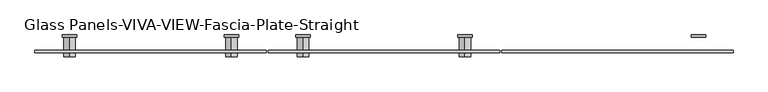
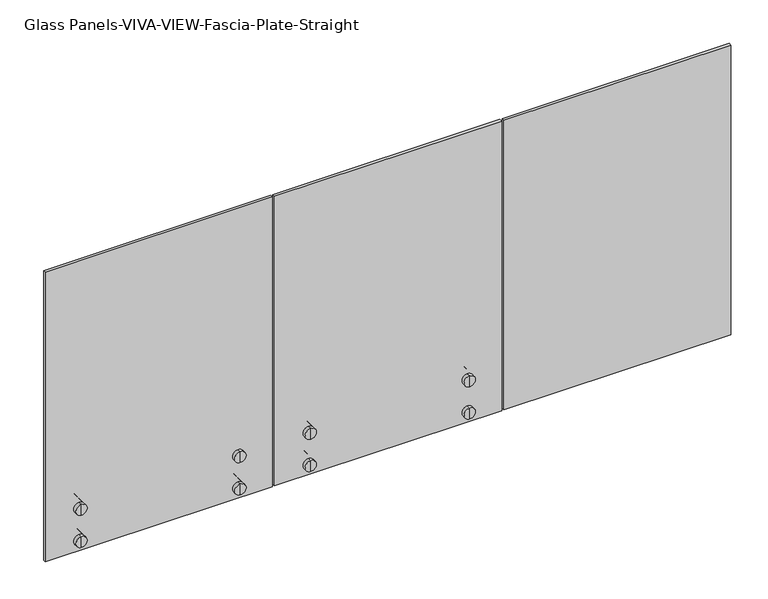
"""IFC4 building model written with IfcOpenShell, lengths in millimetres: railing geometry, Glass Panels-VIVA-VIEW-Fascia-Plate-Straight."""

from ifc_helpers import new_model, si_unit, point, frame, frame_2d, origin, place, context, project, spatial, polyline, circle_curve, trimmed, segment, composite_curve, outline, extrude, source, transform, mapped, element, save
from ifc_brep_helpers import plane_surface, cylinder_surface, advanced_brep


def glass_panels_viva_view_fascia_plate_straight_28301afe(model_context):
    return source(origin(), model_context, "Body", "SolidModel", [
        extrude(outline(composite_curve([segment(polyline([(2971.8, 22815.1596899), (2819.4, 22815.1596899)]), True, "CONTINUOUS"), segment(trimmed(circle_curve(frame_2d((2819.4, 22846.9096899)), 31.75), [point((2819.4, 22815.1596899))], [point((2819.4, 22878.6596899))], False, "CARTESIAN"), True, "CONTINUOUS"), segment(polyline([(2819.4, 22878.6596899), (2971.8, 22878.6596899)]), True, "CONTINUOUS"), segment(trimmed(circle_curve(frame_2d((2971.8, 22846.9096899)), 31.75), [point((2971.8, 22878.6596899))], [point((2971.8, 22815.1596899))], False, "CARTESIAN"), True, "CONTINUOUS")], self_intersect=False)), frame((0.0, -11381.7718115, 0.0), z_axis=(0.0, 1.0, 0.0), x_axis=(0.0, 0.0, 1.0)), (0.0, 0.0, 1.0), 9.525),
        extrude(outline(polyline([(21983.3096899, -11438.9219585), (22999.3096899, -11438.9219585), (22999.3096899, -11451.6219585), (21983.3096899, -11451.6219585), (21983.3096899, -11438.9219585)])), frame((0.0, 0.0, 2768.6), z_axis=(0.0, 0.0, 1.0), x_axis=(1.0, 0.0, 0.0)), (0.0, 0.0, 1.0), 1370.0125),
        advanced_brep(
        [(21109.5496899, -11469.0841646, 2794.0), (21109.5496899, -11469.0841646, 2844.8), (21109.5496899, -11469.0841646, 2819.4), (21109.5496899, -11451.6216646, 2794.0), (21109.5496899, -11451.6216646, 2844.8), (21109.5496899, -11451.6216646, 2813.685), (21109.5496899, -11451.6216646, 2825.115), (21109.5496899, -11438.9216646, 2813.685), (21109.5496899, -11438.9216646, 2825.115), (21109.5496899, -11438.9216646, 2794.0), (21109.5496899, -11438.9216646, 2844.8), (21109.5496899, -11381.7718115, 2794.0), (21109.5496899, -11381.7718115, 2844.8), (21109.5496899, -11381.7718115, 2819.4)],
        [
            (0, 1, circle_curve(frame((21109.5496899, -11469.0841646, 2819.4), z_axis=(0.0, -1.0, 0.0), x_axis=(0.0, 0.0, 1.0)), 25.4)),
            (1, 2),
            (2, 0),
            (1, 0, circle_curve(frame((21109.5496899, -11469.0841646, 2819.4), z_axis=(0.0, -1.0, 0.0), x_axis=(0.0, 0.0, 1.0)), 25.4)),
            (3, 4, circle_curve(frame((21109.5496899, -11451.6216646, 2819.4), z_axis=(0.0, -1.0, 0.0), x_axis=(0.0, 0.0, 1.0)), 25.4)),
            (4, 1),
            (0, 3),
            (4, 3, circle_curve(frame((21109.5496899, -11451.6216646, 2819.4), z_axis=(0.0, -1.0, 0.0), x_axis=(0.0, 0.0, 1.0)), 25.4)),
            (5, 6, circle_curve(frame((21109.5496899, -11451.6216646, 2819.4), z_axis=(0.0, -1.0, 0.0), x_axis=(0.0, 0.0, 1.0)), 5.715)),
            (6, 4),
            (3, 5),
            (6, 5, circle_curve(frame((21109.5496899, -11451.6216646, 2819.4), z_axis=(0.0, -1.0, 0.0), x_axis=(0.0, 0.0, 1.0)), 5.715)),
            (7, 8, circle_curve(frame((21109.5496899, -11438.9216646, 2819.4), z_axis=(0.0, -1.0, 0.0), x_axis=(0.0, 0.0, 1.0)), 5.715)),
            (8, 6),
            (5, 7),
            (8, 7, circle_curve(frame((21109.5496899, -11438.9216646, 2819.4), z_axis=(0.0, -1.0, 0.0), x_axis=(0.0, 0.0, 1.0)), 5.715)),
            (9, 10, circle_curve(frame((21109.5496899, -11438.9216646, 2819.4), z_axis=(0.0, -1.0, 0.0), x_axis=(0.0, 0.0, 1.0)), 25.4)),
            (10, 8),
            (7, 9),
            (10, 9, circle_curve(frame((21109.5496899, -11438.9216646, 2819.4), z_axis=(0.0, -1.0, 0.0), x_axis=(0.0, 0.0, 1.0)), 25.4)),
            (11, 12, circle_curve(frame((21109.5496899, -11381.7718115, 2819.4), z_axis=(0.0, -1.0, 0.0), x_axis=(0.0, 0.0, 1.0)), 25.4)),
            (12, 10),
            (9, 11),
            (12, 11, circle_curve(frame((21109.5496899, -11381.7718115, 2819.4), z_axis=(0.0, -1.0, 0.0), x_axis=(0.0, 0.0, 1.0)), 25.4)),
            (13, 12),
            (11, 13),
        ],
        [
            plane_surface(frame((21109.5496899, -11469.0841646, 2819.4), z_axis=(0.0, -1.0, 0.0), x_axis=(0.0, 0.0, 1.0))),
            cylinder_surface(frame((21109.5496899, -11537.3468115, 2819.4), z_axis=(0.0, 1.0, 0.0), x_axis=(0.0, 0.0, 1.0)), 25.4),
            plane_surface(frame((21109.5496899, -11451.6216646, 2819.4), z_axis=(0.0, 1.0, 0.0), x_axis=(0.0, 0.0, 1.0))),
            cylinder_surface(frame((21109.5496899, -11537.3468115, 2819.4), z_axis=(0.0, 1.0, 0.0), x_axis=(0.0, 0.0, 1.0)), 5.715),
            plane_surface(frame((21109.5496899, -11438.9216646, 2819.4), z_axis=(0.0, -1.0, 0.0), x_axis=(0.0, 0.0, 1.0))),
            plane_surface(frame((21109.5496899, -11381.7718115, 2819.4), z_axis=(0.0, 1.0, 0.0), x_axis=(0.0, 0.0, 1.0))),
        ],
        [
            (0, [[1, 2, 3]]),
            (0, [[4, -3, -2]]),
            (1, [[5, 6, -1, 7]]),
            (1, [[8, -7, -4, -6]]),
            (2, [[9, 10, -5, 11]]),
            (2, [[12, -11, -8, -10]]),
            (3, [[13, 14, -9, 15]]),
            (3, [[16, -15, -12, -14]]),
            (4, [[17, 18, -13, 19]]),
            (4, [[20, -19, -16, -18]]),
            (1, [[21, 22, -17, 23]]),
            (1, [[24, -23, -20, -22]]),
            (5, [[25, -21, 26]]),
            (5, [[-26, -24, -25]]),
        ],
    ),
        advanced_brep(
        [(21109.5496899, -11451.6216646, 2966.085), (21109.5496899, -11451.6216646, 2977.515), (21109.5496899, -11451.6216646, 2997.2), (21109.5496899, -11451.6216646, 2946.4), (21109.5496899, -11438.9216646, 2966.085), (21109.5496899, -11438.9216646, 2977.515), (21109.5496899, -11438.9216646, 2946.4), (21109.5496899, -11438.9216646, 2997.2), (21109.5496899, -11381.7718115, 2946.4), (21109.5496899, -11381.7718115, 2997.2), (21109.5496899, -11381.7718115, 2971.8), (21109.5496899, -11469.0841646, 2946.4), (21109.5496899, -11469.0841646, 2997.2), (21109.5496899, -11469.0841646, 2971.8)],
        [
            (0, 1, circle_curve(frame((21109.5496899, -11451.6216646, 2971.8), z_axis=(0.0, -1.0, 0.0), x_axis=(0.0, 0.0, 1.0)), 5.715)),
            (1, 2),
            (2, 3, circle_curve(frame((21109.5496899, -11451.6216646, 2971.8), z_axis=(0.0, 1.0, 0.0), x_axis=(0.0, 0.0, 1.0)), 25.4)),
            (3, 0),
            (1, 0, circle_curve(frame((21109.5496899, -11451.6216646, 2971.8), z_axis=(0.0, -1.0, 0.0), x_axis=(0.0, 0.0, 1.0)), 5.715)),
            (3, 2, circle_curve(frame((21109.5496899, -11451.6216646, 2971.8), z_axis=(0.0, 1.0, 0.0), x_axis=(0.0, 0.0, 1.0)), 25.4)),
            (4, 5, circle_curve(frame((21109.5496899, -11438.9216646, 2971.8), z_axis=(0.0, -1.0, 0.0), x_axis=(0.0, 0.0, 1.0)), 5.715)),
            (5, 1),
            (0, 4),
            (5, 4, circle_curve(frame((21109.5496899, -11438.9216646, 2971.8), z_axis=(0.0, -1.0, 0.0), x_axis=(0.0, 0.0, 1.0)), 5.715)),
            (6, 7, circle_curve(frame((21109.5496899, -11438.9216646, 2971.8), z_axis=(0.0, -1.0, 0.0), x_axis=(0.0, 0.0, 1.0)), 25.4)),
            (7, 5),
            (4, 6),
            (7, 6, circle_curve(frame((21109.5496899, -11438.9216646, 2971.8), z_axis=(0.0, -1.0, 0.0), x_axis=(0.0, 0.0, 1.0)), 25.4)),
            (8, 9, circle_curve(frame((21109.5496899, -11381.7718115, 2971.8), z_axis=(0.0, -1.0, 0.0), x_axis=(0.0, 0.0, 1.0)), 25.4)),
            (9, 7),
            (6, 8),
            (9, 8, circle_curve(frame((21109.5496899, -11381.7718115, 2971.8), z_axis=(0.0, -1.0, 0.0), x_axis=(0.0, 0.0, 1.0)), 25.4)),
            (10, 9),
            (8, 10),
            (11, 12, circle_curve(frame((21109.5496899, -11469.0841646, 2971.8), z_axis=(0.0, -1.0, 0.0), x_axis=(0.0, 0.0, 1.0)), 25.4)),
            (12, 13),
            (13, 11),
            (12, 11, circle_curve(frame((21109.5496899, -11469.0841646, 2971.8), z_axis=(0.0, -1.0, 0.0), x_axis=(0.0, 0.0, 1.0)), 25.4)),
            (2, 12),
            (11, 3),
        ],
        [
            plane_surface(frame((21109.5496899, -11451.6216646, 2971.8), z_axis=(0.0, 1.0, 0.0), x_axis=(0.0, 0.0, 1.0))),
            cylinder_surface(frame((21109.5496899, -11537.3468115, 2971.8), z_axis=(0.0, 1.0, 0.0), x_axis=(0.0, 0.0, 1.0)), 5.715),
            plane_surface(frame((21109.5496899, -11438.9216646, 2971.8), z_axis=(0.0, -1.0, 0.0), x_axis=(0.0, 0.0, 1.0))),
            cylinder_surface(frame((21109.5496899, -11537.3468115, 2971.8), z_axis=(0.0, 1.0, 0.0), x_axis=(0.0, 0.0, 1.0)), 25.4),
            plane_surface(frame((21109.5496899, -11381.7718115, 2971.8), z_axis=(0.0, 1.0, 0.0), x_axis=(0.0, 0.0, 1.0))),
            plane_surface(frame((21109.5496899, -11469.0841646, 2971.8), z_axis=(0.0, -1.0, 0.0), x_axis=(0.0, 0.0, 1.0))),
        ],
        [
            (0, [[1, 2, 3, 4]]),
            (0, [[5, -4, 6, -2]]),
            (1, [[7, 8, -1, 9]]),
            (1, [[10, -9, -5, -8]]),
            (2, [[11, 12, -7, 13]]),
            (2, [[14, -13, -10, -12]]),
            (3, [[15, 16, -11, 17]]),
            (3, [[18, -17, -14, -16]]),
            (4, [[19, -15, 20]]),
            (4, [[-20, -18, -19]]),
            (5, [[21, 22, 23]]),
            (5, [[24, -23, -22]]),
            (3, [[-3, 25, -21, 26]]),
            (3, [[-6, -26, -24, -25]]),
        ],
    ),
        extrude(outline(composite_curve([segment(polyline([(2971.8, 21077.7996899), (2819.4, 21077.7996899)]), True, "CONTINUOUS"), segment(trimmed(circle_curve(frame_2d((2819.4, 21109.5496899)), 31.75), [point((2819.4, 21077.7996899))], [point((2819.4, 21141.2996899))], False, "CARTESIAN"), True, "CONTINUOUS"), segment(polyline([(2819.4, 21141.2996899), (2971.8, 21141.2996899)]), True, "CONTINUOUS"), segment(trimmed(circle_curve(frame_2d((2971.8, 21109.5496899)), 31.75), [point((2971.8, 21141.2996899))], [point((2971.8, 21077.7996899))], False, "CARTESIAN"), True, "CONTINUOUS")], self_intersect=False)), frame((0.0, -11381.7718115, 0.0), z_axis=(0.0, 1.0, 0.0), x_axis=(0.0, 0.0, 1.0)), (0.0, 0.0, 1.0), 9.525),
        advanced_brep(
        [(21820.7496899, -11469.0841646, 2794.0), (21820.7496899, -11469.0841646, 2844.8), (21820.7496899, -11469.0841646, 2819.4), (21820.7496899, -11451.6216646, 2794.0), (21820.7496899, -11451.6216646, 2844.8), (21820.7496899, -11451.6216646, 2813.685), (21820.7496899, -11451.6216646, 2825.115), (21820.7496899, -11438.9216646, 2813.685), (21820.7496899, -11438.9216646, 2825.115), (21820.7496899, -11438.9216646, 2794.0), (21820.7496899, -11438.9216646, 2844.8), (21820.7496899, -11381.7718115, 2794.0), (21820.7496899, -11381.7718115, 2844.8), (21820.7496899, -11381.7718115, 2819.4)],
        [
            (0, 1, circle_curve(frame((21820.7496899, -11469.0841646, 2819.4), z_axis=(0.0, -1.0, 0.0), x_axis=(0.0, 0.0, 1.0)), 25.4)),
            (1, 2),
            (2, 0),
            (1, 0, circle_curve(frame((21820.7496899, -11469.0841646, 2819.4), z_axis=(0.0, -1.0, 0.0), x_axis=(0.0, 0.0, 1.0)), 25.4)),
            (3, 4, circle_curve(frame((21820.7496899, -11451.6216646, 2819.4), z_axis=(0.0, -1.0, 0.0), x_axis=(0.0, 0.0, 1.0)), 25.4)),
            (4, 1),
            (0, 3),
            (4, 3, circle_curve(frame((21820.7496899, -11451.6216646, 2819.4), z_axis=(0.0, -1.0, 0.0), x_axis=(0.0, 0.0, 1.0)), 25.4)),
            (5, 6, circle_curve(frame((21820.7496899, -11451.6216646, 2819.4), z_axis=(0.0, -1.0, 0.0), x_axis=(0.0, 0.0, 1.0)), 5.715)),
            (6, 4),
            (3, 5),
            (6, 5, circle_curve(frame((21820.7496899, -11451.6216646, 2819.4), z_axis=(0.0, -1.0, 0.0), x_axis=(0.0, 0.0, 1.0)), 5.715)),
            (7, 8, circle_curve(frame((21820.7496899, -11438.9216646, 2819.4), z_axis=(0.0, -1.0, 0.0), x_axis=(0.0, 0.0, 1.0)), 5.715)),
            (8, 6),
            (5, 7),
            (8, 7, circle_curve(frame((21820.7496899, -11438.9216646, 2819.4), z_axis=(0.0, -1.0, 0.0), x_axis=(0.0, 0.0, 1.0)), 5.715)),
            (9, 10, circle_curve(frame((21820.7496899, -11438.9216646, 2819.4), z_axis=(0.0, -1.0, 0.0), x_axis=(0.0, 0.0, 1.0)), 25.4)),
            (10, 8),
            (7, 9),
            (10, 9, circle_curve(frame((21820.7496899, -11438.9216646, 2819.4), z_axis=(0.0, -1.0, 0.0), x_axis=(0.0, 0.0, 1.0)), 25.4)),
            (11, 12, circle_curve(frame((21820.7496899, -11381.7718115, 2819.4), z_axis=(0.0, -1.0, 0.0), x_axis=(0.0, 0.0, 1.0)), 25.4)),
            (12, 10),
            (9, 11),
            (12, 11, circle_curve(frame((21820.7496899, -11381.7718115, 2819.4), z_axis=(0.0, -1.0, 0.0), x_axis=(0.0, 0.0, 1.0)), 25.4)),
            (13, 12),
            (11, 13),
        ],
        [
            plane_surface(frame((21820.7496899, -11469.0841646, 2819.4), z_axis=(0.0, -1.0, 0.0), x_axis=(0.0, 0.0, 1.0))),
            cylinder_surface(frame((21820.7496899, -11537.3468115, 2819.4), z_axis=(0.0, 1.0, 0.0), x_axis=(0.0, 0.0, 1.0)), 25.4),
            plane_surface(frame((21820.7496899, -11451.6216646, 2819.4), z_axis=(0.0, 1.0, 0.0), x_axis=(0.0, 0.0, 1.0))),
            cylinder_surface(frame((21820.7496899, -11537.3468115, 2819.4), z_axis=(0.0, 1.0, 0.0), x_axis=(0.0, 0.0, 1.0)), 5.715),
            plane_surface(frame((21820.7496899, -11438.9216646, 2819.4), z_axis=(0.0, -1.0, 0.0), x_axis=(0.0, 0.0, 1.0))),
            plane_surface(frame((21820.7496899, -11381.7718115, 2819.4), z_axis=(0.0, 1.0, 0.0), x_axis=(0.0, 0.0, 1.0))),
        ],
        [
            (0, [[1, 2, 3]]),
            (0, [[4, -3, -2]]),
            (1, [[5, 6, -1, 7]]),
            (1, [[8, -7, -4, -6]]),
            (2, [[9, 10, -5, 11]]),
            (2, [[12, -11, -8, -10]]),
            (3, [[13, 14, -9, 15]]),
            (3, [[16, -15, -12, -14]]),
            (4, [[17, 18, -13, 19]]),
            (4, [[20, -19, -16, -18]]),
            (1, [[21, 22, -17, 23]]),
            (1, [[24, -23, -20, -22]]),
            (5, [[25, -21, 26]]),
            (5, [[-26, -24, -25]]),
        ],
    ),
        advanced_brep(
        [(21820.7496899, -11451.6216646, 2966.085), (21820.7496899, -11451.6216646, 2977.515), (21820.7496899, -11451.6216646, 2997.2), (21820.7496899, -11451.6216646, 2946.4), (21820.7496899, -11438.9216646, 2966.085), (21820.7496899, -11438.9216646, 2977.515), (21820.7496899, -11438.9216646, 2946.4), (21820.7496899, -11438.9216646, 2997.2), (21820.7496899, -11381.7718115, 2946.4), (21820.7496899, -11381.7718115, 2997.2), (21820.7496899, -11381.7718115, 2971.8), (21820.7496899, -11469.0841646, 2946.4), (21820.7496899, -11469.0841646, 2997.2), (21820.7496899, -11469.0841646, 2971.8)],
        [
            (0, 1, circle_curve(frame((21820.7496899, -11451.6216646, 2971.8), z_axis=(0.0, -1.0, 0.0), x_axis=(0.0, 0.0, 1.0)), 5.715)),
            (1, 2),
            (2, 3, circle_curve(frame((21820.7496899, -11451.6216646, 2971.8), z_axis=(0.0, 1.0, 0.0), x_axis=(0.0, 0.0, 1.0)), 25.4)),
            (3, 0),
            (1, 0, circle_curve(frame((21820.7496899, -11451.6216646, 2971.8), z_axis=(0.0, -1.0, 0.0), x_axis=(0.0, 0.0, 1.0)), 5.715)),
            (3, 2, circle_curve(frame((21820.7496899, -11451.6216646, 2971.8), z_axis=(0.0, 1.0, 0.0), x_axis=(0.0, 0.0, 1.0)), 25.4)),
            (4, 5, circle_curve(frame((21820.7496899, -11438.9216646, 2971.8), z_axis=(0.0, -1.0, 0.0), x_axis=(0.0, 0.0, 1.0)), 5.715)),
            (5, 1),
            (0, 4),
            (5, 4, circle_curve(frame((21820.7496899, -11438.9216646, 2971.8), z_axis=(0.0, -1.0, 0.0), x_axis=(0.0, 0.0, 1.0)), 5.715)),
            (6, 7, circle_curve(frame((21820.7496899, -11438.9216646, 2971.8), z_axis=(0.0, -1.0, 0.0), x_axis=(0.0, 0.0, 1.0)), 25.4)),
            (7, 5),
            (4, 6),
            (7, 6, circle_curve(frame((21820.7496899, -11438.9216646, 2971.8), z_axis=(0.0, -1.0, 0.0), x_axis=(0.0, 0.0, 1.0)), 25.4)),
            (8, 9, circle_curve(frame((21820.7496899, -11381.7718115, 2971.8), z_axis=(0.0, -1.0, 0.0), x_axis=(0.0, 0.0, 1.0)), 25.4)),
            (9, 7),
            (6, 8),
            (9, 8, circle_curve(frame((21820.7496899, -11381.7718115, 2971.8), z_axis=(0.0, -1.0, 0.0), x_axis=(0.0, 0.0, 1.0)), 25.4)),
            (10, 9),
            (8, 10),
            (11, 12, circle_curve(frame((21820.7496899, -11469.0841646, 2971.8), z_axis=(0.0, -1.0, 0.0), x_axis=(0.0, 0.0, 1.0)), 25.4)),
            (12, 13),
            (13, 11),
            (12, 11, circle_curve(frame((21820.7496899, -11469.0841646, 2971.8), z_axis=(0.0, -1.0, 0.0), x_axis=(0.0, 0.0, 1.0)), 25.4)),
            (2, 12),
            (11, 3),
        ],
        [
            plane_surface(frame((21820.7496899, -11451.6216646, 2971.8), z_axis=(0.0, 1.0, 0.0), x_axis=(0.0, 0.0, 1.0))),
            cylinder_surface(frame((21820.7496899, -11537.3468115, 2971.8), z_axis=(0.0, 1.0, 0.0), x_axis=(0.0, 0.0, 1.0)), 5.715),
            plane_surface(frame((21820.7496899, -11438.9216646, 2971.8), z_axis=(0.0, -1.0, 0.0), x_axis=(0.0, 0.0, 1.0))),
            cylinder_surface(frame((21820.7496899, -11537.3468115, 2971.8), z_axis=(0.0, 1.0, 0.0), x_axis=(0.0, 0.0, 1.0)), 25.4),
            plane_surface(frame((21820.7496899, -11381.7718115, 2971.8), z_axis=(0.0, 1.0, 0.0), x_axis=(0.0, 0.0, 1.0))),
            plane_surface(frame((21820.7496899, -11469.0841646, 2971.8), z_axis=(0.0, -1.0, 0.0), x_axis=(0.0, 0.0, 1.0))),
        ],
        [
            (0, [[1, 2, 3, 4]]),
            (0, [[5, -4, 6, -2]]),
            (1, [[7, 8, -1, 9]]),
            (1, [[10, -9, -5, -8]]),
            (2, [[11, 12, -7, 13]]),
            (2, [[14, -13, -10, -12]]),
            (3, [[15, 16, -11, 17]]),
            (3, [[18, -17, -14, -16]]),
            (4, [[19, -15, 20]]),
            (4, [[-20, -18, -19]]),
            (5, [[21, 22, 23]]),
            (5, [[24, -23, -22]]),
            (3, [[-3, 25, -21, 26]]),
            (3, [[-6, -26, -24, -25]]),
        ],
    ),
        extrude(outline(composite_curve([segment(polyline([(2971.8, 21788.9996899), (2819.4, 21788.9996899)]), True, "CONTINUOUS"), segment(trimmed(circle_curve(frame_2d((2819.4, 21820.7496899)), 31.75), [point((2819.4, 21788.9996899))], [point((2819.4, 21852.4996899))], False, "CARTESIAN"), True, "CONTINUOUS"), segment(polyline([(2819.4, 21852.4996899), (2971.8, 21852.4996899)]), True, "CONTINUOUS"), segment(trimmed(circle_curve(frame_2d((2971.8, 21820.7496899)), 31.75), [point((2971.8, 21852.4996899))], [point((2971.8, 21788.9996899))], False, "CARTESIAN"), True, "CONTINUOUS")], self_intersect=False)), frame((0.0, -11381.7718115, 0.0), z_axis=(0.0, 1.0, 0.0), x_axis=(0.0, 0.0, 1.0)), (0.0, 0.0, 1.0), 9.525),
        extrude(outline(polyline([(20957.1496899, -11438.9219585), (21973.1496899, -11438.9219585), (21973.1496899, -11451.6219585), (20957.1496899, -11451.6219585), (20957.1496899, -11438.9219585)])), frame((0.0, 0.0, 2768.6), z_axis=(0.0, 0.0, 1.0), x_axis=(1.0, 0.0, 0.0)), (0.0, 0.0, 1.0), 1370.0125),
        advanced_brep(
        [(20083.3896899, -11469.0841646, 2794.0), (20083.3896899, -11469.0841646, 2844.8), (20083.3896899, -11469.0841646, 2819.4), (20083.3896899, -11451.6216646, 2794.0), (20083.3896899, -11451.6216646, 2844.8), (20083.3896899, -11451.6216646, 2813.685), (20083.3896899, -11451.6216646, 2825.115), (20083.3896899, -11438.9216646, 2813.685), (20083.3896899, -11438.9216646, 2825.115), (20083.3896899, -11438.9216646, 2794.0), (20083.3896899, -11438.9216646, 2844.8), (20083.3896899, -11381.7718115, 2794.0), (20083.3896899, -11381.7718115, 2844.8), (20083.3896899, -11381.7718115, 2819.4)],
        [
            (0, 1, circle_curve(frame((20083.3896899, -11469.0841646, 2819.4), z_axis=(0.0, -1.0, 0.0), x_axis=(0.0, 0.0, 1.0)), 25.4)),
            (1, 2),
            (2, 0),
            (1, 0, circle_curve(frame((20083.3896899, -11469.0841646, 2819.4), z_axis=(0.0, -1.0, 0.0), x_axis=(0.0, 0.0, 1.0)), 25.4)),
            (3, 4, circle_curve(frame((20083.3896899, -11451.6216646, 2819.4), z_axis=(0.0, -1.0, 0.0), x_axis=(0.0, 0.0, 1.0)), 25.4)),
            (4, 1),
            (0, 3),
            (4, 3, circle_curve(frame((20083.3896899, -11451.6216646, 2819.4), z_axis=(0.0, -1.0, 0.0), x_axis=(0.0, 0.0, 1.0)), 25.4)),
            (5, 6, circle_curve(frame((20083.3896899, -11451.6216646, 2819.4), z_axis=(0.0, -1.0, 0.0), x_axis=(0.0, 0.0, 1.0)), 5.715)),
            (6, 4),
            (3, 5),
            (6, 5, circle_curve(frame((20083.3896899, -11451.6216646, 2819.4), z_axis=(0.0, -1.0, 0.0), x_axis=(0.0, 0.0, 1.0)), 5.715)),
            (7, 8, circle_curve(frame((20083.3896899, -11438.9216646, 2819.4), z_axis=(0.0, -1.0, 0.0), x_axis=(0.0, 0.0, 1.0)), 5.715)),
            (8, 6),
            (5, 7),
            (8, 7, circle_curve(frame((20083.3896899, -11438.9216646, 2819.4), z_axis=(0.0, -1.0, 0.0), x_axis=(0.0, 0.0, 1.0)), 5.715)),
            (9, 10, circle_curve(frame((20083.3896899, -11438.9216646, 2819.4), z_axis=(0.0, -1.0, 0.0), x_axis=(0.0, 0.0, 1.0)), 25.4)),
            (10, 8),
            (7, 9),
            (10, 9, circle_curve(frame((20083.3896899, -11438.9216646, 2819.4), z_axis=(0.0, -1.0, 0.0), x_axis=(0.0, 0.0, 1.0)), 25.4)),
            (11, 12, circle_curve(frame((20083.3896899, -11381.7718115, 2819.4), z_axis=(0.0, -1.0, 0.0), x_axis=(0.0, 0.0, 1.0)), 25.4)),
            (12, 10),
            (9, 11),
            (12, 11, circle_curve(frame((20083.3896899, -11381.7718115, 2819.4), z_axis=(0.0, -1.0, 0.0), x_axis=(0.0, 0.0, 1.0)), 25.4)),
            (13, 12),
            (11, 13),
        ],
        [
            plane_surface(frame((20083.3896899, -11469.0841646, 2819.4), z_axis=(0.0, -1.0, 0.0), x_axis=(0.0, 0.0, 1.0))),
            cylinder_surface(frame((20083.3896899, -11537.3468115, 2819.4), z_axis=(0.0, 1.0, 0.0), x_axis=(0.0, 0.0, 1.0)), 25.4),
            plane_surface(frame((20083.3896899, -11451.6216646, 2819.4), z_axis=(0.0, 1.0, 0.0), x_axis=(0.0, 0.0, 1.0))),
            cylinder_surface(frame((20083.3896899, -11537.3468115, 2819.4), z_axis=(0.0, 1.0, 0.0), x_axis=(0.0, 0.0, 1.0)), 5.715),
            plane_surface(frame((20083.3896899, -11438.9216646, 2819.4), z_axis=(0.0, -1.0, 0.0), x_axis=(0.0, 0.0, 1.0))),
            plane_surface(frame((20083.3896899, -11381.7718115, 2819.4), z_axis=(0.0, 1.0, 0.0), x_axis=(0.0, 0.0, 1.0))),
        ],
        [
            (0, [[1, 2, 3]]),
            (0, [[4, -3, -2]]),
            (1, [[5, 6, -1, 7]]),
            (1, [[8, -7, -4, -6]]),
            (2, [[9, 10, -5, 11]]),
            (2, [[12, -11, -8, -10]]),
            (3, [[13, 14, -9, 15]]),
            (3, [[16, -15, -12, -14]]),
            (4, [[17, 18, -13, 19]]),
            (4, [[20, -19, -16, -18]]),
            (1, [[21, 22, -17, 23]]),
            (1, [[24, -23, -20, -22]]),
            (5, [[25, -21, 26]]),
            (5, [[-26, -24, -25]]),
        ],
    ),
        advanced_brep(
        [(20083.3896899, -11451.6216646, 2966.085), (20083.3896899, -11451.6216646, 2977.515), (20083.3896899, -11451.6216646, 2997.2), (20083.3896899, -11451.6216646, 2946.4), (20083.3896899, -11438.9216646, 2966.085), (20083.3896899, -11438.9216646, 2977.515), (20083.3896899, -11438.9216646, 2946.4), (20083.3896899, -11438.9216646, 2997.2), (20083.3896899, -11381.7718115, 2946.4), (20083.3896899, -11381.7718115, 2997.2), (20083.3896899, -11381.7718115, 2971.8), (20083.3896899, -11469.0841646, 2946.4), (20083.3896899, -11469.0841646, 2997.2), (20083.3896899, -11469.0841646, 2971.8)],
        [
            (0, 1, circle_curve(frame((20083.3896899, -11451.6216646, 2971.8), z_axis=(0.0, -1.0, 0.0), x_axis=(0.0, 0.0, 1.0)), 5.715)),
            (1, 2),
            (2, 3, circle_curve(frame((20083.3896899, -11451.6216646, 2971.8), z_axis=(0.0, 1.0, 0.0), x_axis=(0.0, 0.0, 1.0)), 25.4)),
            (3, 0),
            (1, 0, circle_curve(frame((20083.3896899, -11451.6216646, 2971.8), z_axis=(0.0, -1.0, 0.0), x_axis=(0.0, 0.0, 1.0)), 5.715)),
            (3, 2, circle_curve(frame((20083.3896899, -11451.6216646, 2971.8), z_axis=(0.0, 1.0, 0.0), x_axis=(0.0, 0.0, 1.0)), 25.4)),
            (4, 5, circle_curve(frame((20083.3896899, -11438.9216646, 2971.8), z_axis=(0.0, -1.0, 0.0), x_axis=(0.0, 0.0, 1.0)), 5.715)),
            (5, 1),
            (0, 4),
            (5, 4, circle_curve(frame((20083.3896899, -11438.9216646, 2971.8), z_axis=(0.0, -1.0, 0.0), x_axis=(0.0, 0.0, 1.0)), 5.715)),
            (6, 7, circle_curve(frame((20083.3896899, -11438.9216646, 2971.8), z_axis=(0.0, -1.0, 0.0), x_axis=(0.0, 0.0, 1.0)), 25.4)),
            (7, 5),
            (4, 6),
            (7, 6, circle_curve(frame((20083.3896899, -11438.9216646, 2971.8), z_axis=(0.0, -1.0, 0.0), x_axis=(0.0, 0.0, 1.0)), 25.4)),
            (8, 9, circle_curve(frame((20083.3896899, -11381.7718115, 2971.8), z_axis=(0.0, -1.0, 0.0), x_axis=(0.0, 0.0, 1.0)), 25.4)),
            (9, 7),
            (6, 8),
            (9, 8, circle_curve(frame((20083.3896899, -11381.7718115, 2971.8), z_axis=(0.0, -1.0, 0.0), x_axis=(0.0, 0.0, 1.0)), 25.4)),
            (10, 9),
            (8, 10),
            (11, 12, circle_curve(frame((20083.3896899, -11469.0841646, 2971.8), z_axis=(0.0, -1.0, 0.0), x_axis=(0.0, 0.0, 1.0)), 25.4)),
            (12, 13),
            (13, 11),
            (12, 11, circle_curve(frame((20083.3896899, -11469.0841646, 2971.8), z_axis=(0.0, -1.0, 0.0), x_axis=(0.0, 0.0, 1.0)), 25.4)),
            (2, 12),
            (11, 3),
        ],
        [
            plane_surface(frame((20083.3896899, -11451.6216646, 2971.8), z_axis=(0.0, 1.0, 0.0), x_axis=(0.0, 0.0, 1.0))),
            cylinder_surface(frame((20083.3896899, -11537.3468115, 2971.8), z_axis=(0.0, 1.0, 0.0), x_axis=(0.0, 0.0, 1.0)), 5.715),
            plane_surface(frame((20083.3896899, -11438.9216646, 2971.8), z_axis=(0.0, -1.0, 0.0), x_axis=(0.0, 0.0, 1.0))),
            cylinder_surface(frame((20083.3896899, -11537.3468115, 2971.8), z_axis=(0.0, 1.0, 0.0), x_axis=(0.0, 0.0, 1.0)), 25.4),
            plane_surface(frame((20083.3896899, -11381.7718115, 2971.8), z_axis=(0.0, 1.0, 0.0), x_axis=(0.0, 0.0, 1.0))),
            plane_surface(frame((20083.3896899, -11469.0841646, 2971.8), z_axis=(0.0, -1.0, 0.0), x_axis=(0.0, 0.0, 1.0))),
        ],
        [
            (0, [[1, 2, 3, 4]]),
            (0, [[5, -4, 6, -2]]),
            (1, [[7, 8, -1, 9]]),
            (1, [[10, -9, -5, -8]]),
            (2, [[11, 12, -7, 13]]),
            (2, [[14, -13, -10, -12]]),
            (3, [[15, 16, -11, 17]]),
            (3, [[18, -17, -14, -16]]),
            (4, [[19, -15, 20]]),
            (4, [[-20, -18, -19]]),
            (5, [[21, 22, 23]]),
            (5, [[24, -23, -22]]),
            (3, [[-3, 25, -21, 26]]),
            (3, [[-6, -26, -24, -25]]),
        ],
    ),
        extrude(outline(composite_curve([segment(polyline([(2971.8, 20051.6396899), (2819.4, 20051.6396899)]), True, "CONTINUOUS"), segment(trimmed(circle_curve(frame_2d((2819.4, 20083.3896899)), 31.75), [point((2819.4, 20051.6396899))], [point((2819.4, 20115.1396899))], False, "CARTESIAN"), True, "CONTINUOUS"), segment(polyline([(2819.4, 20115.1396899), (2971.8, 20115.1396899)]), True, "CONTINUOUS"), segment(trimmed(circle_curve(frame_2d((2971.8, 20083.3896899)), 31.75), [point((2971.8, 20115.1396899))], [point((2971.8, 20051.6396899))], False, "CARTESIAN"), True, "CONTINUOUS")], self_intersect=False)), frame((0.0, -11381.7718115, 0.0), z_axis=(0.0, 1.0, 0.0), x_axis=(0.0, 0.0, 1.0)), (0.0, 0.0, 1.0), 9.525),
        advanced_brep(
        [(20794.5896899, -11469.0841646, 2794.0), (20794.5896899, -11469.0841646, 2844.8), (20794.5896899, -11469.0841646, 2819.4), (20794.5896899, -11451.6216646, 2794.0), (20794.5896899, -11451.6216646, 2844.8), (20794.5896899, -11451.6216646, 2813.685), (20794.5896899, -11451.6216646, 2825.115), (20794.5896899, -11438.9216646, 2813.685), (20794.5896899, -11438.9216646, 2825.115), (20794.5896899, -11438.9216646, 2794.0), (20794.5896899, -11438.9216646, 2844.8), (20794.5896899, -11381.7718115, 2794.0), (20794.5896899, -11381.7718115, 2844.8), (20794.5896899, -11381.7718115, 2819.4)],
        [
            (0, 1, circle_curve(frame((20794.5896899, -11469.0841646, 2819.4), z_axis=(0.0, -1.0, 0.0), x_axis=(0.0, 0.0, 1.0)), 25.4)),
            (1, 2),
            (2, 0),
            (1, 0, circle_curve(frame((20794.5896899, -11469.0841646, 2819.4), z_axis=(0.0, -1.0, 0.0), x_axis=(0.0, 0.0, 1.0)), 25.4)),
            (3, 4, circle_curve(frame((20794.5896899, -11451.6216646, 2819.4), z_axis=(0.0, -1.0, 0.0), x_axis=(0.0, 0.0, 1.0)), 25.4)),
            (4, 1),
            (0, 3),
            (4, 3, circle_curve(frame((20794.5896899, -11451.6216646, 2819.4), z_axis=(0.0, -1.0, 0.0), x_axis=(0.0, 0.0, 1.0)), 25.4)),
            (5, 6, circle_curve(frame((20794.5896899, -11451.6216646, 2819.4), z_axis=(0.0, -1.0, 0.0), x_axis=(0.0, 0.0, 1.0)), 5.715)),
            (6, 4),
            (3, 5),
            (6, 5, circle_curve(frame((20794.5896899, -11451.6216646, 2819.4), z_axis=(0.0, -1.0, 0.0), x_axis=(0.0, 0.0, 1.0)), 5.715)),
            (7, 8, circle_curve(frame((20794.5896899, -11438.9216646, 2819.4), z_axis=(0.0, -1.0, 0.0), x_axis=(0.0, 0.0, 1.0)), 5.715)),
            (8, 6),
            (5, 7),
            (8, 7, circle_curve(frame((20794.5896899, -11438.9216646, 2819.4), z_axis=(0.0, -1.0, 0.0), x_axis=(0.0, 0.0, 1.0)), 5.715)),
            (9, 10, circle_curve(frame((20794.5896899, -11438.9216646, 2819.4), z_axis=(0.0, -1.0, 0.0), x_axis=(0.0, 0.0, 1.0)), 25.4)),
            (10, 8),
            (7, 9),
            (10, 9, circle_curve(frame((20794.5896899, -11438.9216646, 2819.4), z_axis=(0.0, -1.0, 0.0), x_axis=(0.0, 0.0, 1.0)), 25.4)),
            (11, 12, circle_curve(frame((20794.5896899, -11381.7718115, 2819.4), z_axis=(0.0, -1.0, 0.0), x_axis=(0.0, 0.0, 1.0)), 25.4)),
            (12, 10),
            (9, 11),
            (12, 11, circle_curve(frame((20794.5896899, -11381.7718115, 2819.4), z_axis=(0.0, -1.0, 0.0), x_axis=(0.0, 0.0, 1.0)), 25.4)),
            (13, 12),
            (11, 13),
        ],
        [
            plane_surface(frame((20794.5896899, -11469.0841646, 2819.4), z_axis=(0.0, -1.0, 0.0), x_axis=(0.0, 0.0, 1.0))),
            cylinder_surface(frame((20794.5896899, -11537.3468115, 2819.4), z_axis=(0.0, 1.0, 0.0), x_axis=(0.0, 0.0, 1.0)), 25.4),
            plane_surface(frame((20794.5896899, -11451.6216646, 2819.4), z_axis=(0.0, 1.0, 0.0), x_axis=(0.0, 0.0, 1.0))),
            cylinder_surface(frame((20794.5896899, -11537.3468115, 2819.4), z_axis=(0.0, 1.0, 0.0), x_axis=(0.0, 0.0, 1.0)), 5.715),
            plane_surface(frame((20794.5896899, -11438.9216646, 2819.4), z_axis=(0.0, -1.0, 0.0), x_axis=(0.0, 0.0, 1.0))),
            plane_surface(frame((20794.5896899, -11381.7718115, 2819.4), z_axis=(0.0, 1.0, 0.0), x_axis=(0.0, 0.0, 1.0))),
        ],
        [
            (0, [[1, 2, 3]]),
            (0, [[4, -3, -2]]),
            (1, [[5, 6, -1, 7]]),
            (1, [[8, -7, -4, -6]]),
            (2, [[9, 10, -5, 11]]),
            (2, [[12, -11, -8, -10]]),
            (3, [[13, 14, -9, 15]]),
            (3, [[16, -15, -12, -14]]),
            (4, [[17, 18, -13, 19]]),
            (4, [[20, -19, -16, -18]]),
            (1, [[21, 22, -17, 23]]),
            (1, [[24, -23, -20, -22]]),
            (5, [[25, -21, 26]]),
            (5, [[-26, -24, -25]]),
        ],
    ),
        advanced_brep(
        [(20794.5896899, -11451.6216646, 2966.085), (20794.5896899, -11451.6216646, 2977.515), (20794.5896899, -11451.6216646, 2997.2), (20794.5896899, -11451.6216646, 2946.4), (20794.5896899, -11438.9216646, 2966.085), (20794.5896899, -11438.9216646, 2977.515), (20794.5896899, -11438.9216646, 2946.4), (20794.5896899, -11438.9216646, 2997.2), (20794.5896899, -11381.7718115, 2946.4), (20794.5896899, -11381.7718115, 2997.2), (20794.5896899, -11381.7718115, 2971.8), (20794.5896899, -11469.0841646, 2946.4), (20794.5896899, -11469.0841646, 2997.2), (20794.5896899, -11469.0841646, 2971.8)],
        [
            (0, 1, circle_curve(frame((20794.5896899, -11451.6216646, 2971.8), z_axis=(0.0, -1.0, 0.0), x_axis=(0.0, 0.0, 1.0)), 5.715)),
            (1, 2),
            (2, 3, circle_curve(frame((20794.5896899, -11451.6216646, 2971.8), z_axis=(0.0, 1.0, 0.0), x_axis=(0.0, 0.0, 1.0)), 25.4)),
            (3, 0),
            (1, 0, circle_curve(frame((20794.5896899, -11451.6216646, 2971.8), z_axis=(0.0, -1.0, 0.0), x_axis=(0.0, 0.0, 1.0)), 5.715)),
            (3, 2, circle_curve(frame((20794.5896899, -11451.6216646, 2971.8), z_axis=(0.0, 1.0, 0.0), x_axis=(0.0, 0.0, 1.0)), 25.4)),
            (4, 5, circle_curve(frame((20794.5896899, -11438.9216646, 2971.8), z_axis=(0.0, -1.0, 0.0), x_axis=(0.0, 0.0, 1.0)), 5.715)),
            (5, 1),
            (0, 4),
            (5, 4, circle_curve(frame((20794.5896899, -11438.9216646, 2971.8), z_axis=(0.0, -1.0, 0.0), x_axis=(0.0, 0.0, 1.0)), 5.715)),
            (6, 7, circle_curve(frame((20794.5896899, -11438.9216646, 2971.8), z_axis=(0.0, -1.0, 0.0), x_axis=(0.0, 0.0, 1.0)), 25.4)),
            (7, 5),
            (4, 6),
            (7, 6, circle_curve(frame((20794.5896899, -11438.9216646, 2971.8), z_axis=(0.0, -1.0, 0.0), x_axis=(0.0, 0.0, 1.0)), 25.4)),
            (8, 9, circle_curve(frame((20794.5896899, -11381.7718115, 2971.8), z_axis=(0.0, -1.0, 0.0), x_axis=(0.0, 0.0, 1.0)), 25.4)),
            (9, 7),
            (6, 8),
            (9, 8, circle_curve(frame((20794.5896899, -11381.7718115, 2971.8), z_axis=(0.0, -1.0, 0.0), x_axis=(0.0, 0.0, 1.0)), 25.4)),
            (10, 9),
            (8, 10),
            (11, 12, circle_curve(frame((20794.5896899, -11469.0841646, 2971.8), z_axis=(0.0, -1.0, 0.0), x_axis=(0.0, 0.0, 1.0)), 25.4)),
            (12, 13),
            (13, 11),
            (12, 11, circle_curve(frame((20794.5896899, -11469.0841646, 2971.8), z_axis=(0.0, -1.0, 0.0), x_axis=(0.0, 0.0, 1.0)), 25.4)),
            (2, 12),
            (11, 3),
        ],
        [
            plane_surface(frame((20794.5896899, -11451.6216646, 2971.8), z_axis=(0.0, 1.0, 0.0), x_axis=(0.0, 0.0, 1.0))),
            cylinder_surface(frame((20794.5896899, -11537.3468115, 2971.8), z_axis=(0.0, 1.0, 0.0), x_axis=(0.0, 0.0, 1.0)), 5.715),
            plane_surface(frame((20794.5896899, -11438.9216646, 2971.8), z_axis=(0.0, -1.0, 0.0), x_axis=(0.0, 0.0, 1.0))),
            cylinder_surface(frame((20794.5896899, -11537.3468115, 2971.8), z_axis=(0.0, 1.0, 0.0), x_axis=(0.0, 0.0, 1.0)), 25.4),
            plane_surface(frame((20794.5896899, -11381.7718115, 2971.8), z_axis=(0.0, 1.0, 0.0), x_axis=(0.0, 0.0, 1.0))),
            plane_surface(frame((20794.5896899, -11469.0841646, 2971.8), z_axis=(0.0, -1.0, 0.0), x_axis=(0.0, 0.0, 1.0))),
        ],
        [
            (0, [[1, 2, 3, 4]]),
            (0, [[5, -4, 6, -2]]),
            (1, [[7, 8, -1, 9]]),
            (1, [[10, -9, -5, -8]]),
            (2, [[11, 12, -7, 13]]),
            (2, [[14, -13, -10, -12]]),
            (3, [[15, 16, -11, 17]]),
            (3, [[18, -17, -14, -16]]),
            (4, [[19, -15, 20]]),
            (4, [[-20, -18, -19]]),
            (5, [[21, 22, 23]]),
            (5, [[24, -23, -22]]),
            (3, [[-3, 25, -21, 26]]),
            (3, [[-6, -26, -24, -25]]),
        ],
    ),
        extrude(outline(composite_curve([segment(polyline([(2971.8, 20762.8396899), (2819.4, 20762.8396899)]), True, "CONTINUOUS"), segment(trimmed(circle_curve(frame_2d((2819.4, 20794.5896899)), 31.75), [point((2819.4, 20762.8396899))], [point((2819.4, 20826.3396899))], False, "CARTESIAN"), True, "CONTINUOUS"), segment(polyline([(2819.4, 20826.3396899), (2971.8, 20826.3396899)]), True, "CONTINUOUS"), segment(trimmed(circle_curve(frame_2d((2971.8, 20794.5896899)), 31.75), [point((2971.8, 20826.3396899))], [point((2971.8, 20762.8396899))], False, "CARTESIAN"), True, "CONTINUOUS")], self_intersect=False)), frame((0.0, -11381.7718115, 0.0), z_axis=(0.0, 1.0, 0.0), x_axis=(0.0, 0.0, 1.0)), (0.0, 0.0, 1.0), 9.525),
        extrude(outline(polyline([(19930.9896899, -11438.9219585), (20946.9896899, -11438.9219585), (20946.9896899, -11451.6219585), (19930.9896899, -11451.6219585), (19930.9896899, -11438.9219585)])), frame((0.0, 0.0, 2768.6), z_axis=(0.0, 0.0, 1.0), x_axis=(1.0, 0.0, 0.0)), (0.0, 0.0, 1.0), 1370.0125),
    ])


if __name__ == "__main__":
    model = new_model("IFC4")
    model_context = context("Model", 3, world=origin())
    ifc_project = project(units=[si_unit("LENGTHUNIT", "METRE", prefix="MILLI")], contexts=[model_context])
    site = spatial("IfcSite", under=ifc_project)
    building = spatial("IfcBuilding", under=site)
    placement = place(None, origin())
    glass_panels_viva_view_fascia_plate_straight_shape = glass_panels_viva_view_fascia_plate_straight_28301afe(model_context)
    element("IfcRailing", 1, ObjectType="Glass Panels-VIVA-VIEW-Fascia-Plate-Straight", at=placement, inside=building, context=model_context, shape_type="MappedRepresentation", body=[
        mapped(glass_panels_viva_view_fascia_plate_straight_shape, transform((0.0, 0.0, 0.0), x_axis=(1.0, 0.0, 0.0), y_axis=(0.0, 1.0, 0.0), z_axis=(0.0, 0.0, 1.0))),
    ])
    save(model, "model.ifc")
